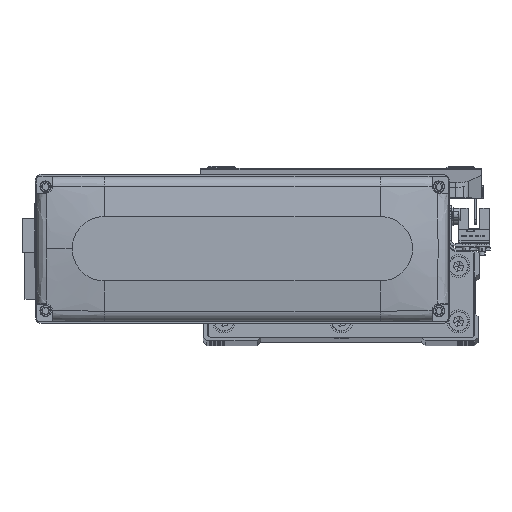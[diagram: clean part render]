
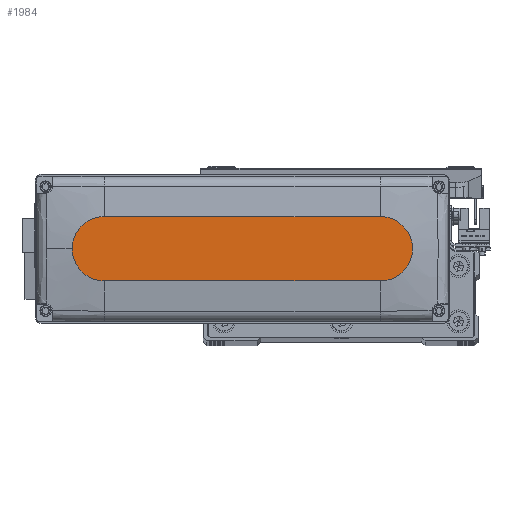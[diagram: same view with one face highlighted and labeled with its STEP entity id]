
A CAD part, top view. The second image highlights one B-rep face of the part: STEP entity #1984.
In plain terms, the highlighted planar face has unit normal (0, 0, 1).
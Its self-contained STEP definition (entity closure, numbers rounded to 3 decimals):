
#233 = ORIENTED_EDGE ( 'NONE', *, *, #38080, .T. ) ;
#1067 = FACE_OUTER_BOUND ( 'NONE', #2857, .T. ) ;
#1984 = ADVANCED_FACE ( 'NONE', ( #1067 ), #15912, .T. ) ;
#2857 = EDGE_LOOP ( 'NONE', ( #233, #46938, #24673, #31609, #34212 ) ) ;
#3426 = VERTEX_POINT ( 'NONE', #15320 ) ;
#5871 = EDGE_CURVE ( 'NONE', #31293, #3426, #12746, .T. ) ;
#8051 = DIRECTION ( 'NONE',  ( 0., 0., 1. ) ) ;
#8936 = CARTESIAN_POINT ( 'NONE',  ( -60., 14., 28.5 ) ) ;
#9858 = CARTESIAN_POINT ( 'NONE',  ( 60., 0., 28.5 ) ) ;
#10133 = AXIS2_PLACEMENT_3D ( 'NONE', #9858, #24656, #39480 ) ;
#11241 = DIRECTION ( 'NONE',  ( 0., 0., 1. ) ) ;
#12265 = DIRECTION ( 'NONE',  ( 1., 0., 0. ) ) ;
#12412 = DIRECTION ( 'NONE',  ( -1., 0., 0. ) ) ;
#12746 = CIRCLE ( 'NONE', #39889, 14. ) ;
#13311 = DIRECTION ( 'NONE',  ( 1., 0., 0. ) ) ;
#13469 = CARTESIAN_POINT ( 'NONE',  ( 60., 14., 28.5 ) ) ;
#14670 = VERTEX_POINT ( 'NONE', #38906 ) ;
#15320 = CARTESIAN_POINT ( 'NONE',  ( -60., -14., 28.5 ) ) ;
#15912 = PLANE ( 'NONE',  #46487 ) ;
#22876 = DIRECTION ( 'NONE',  ( 1., 0., 0. ) ) ;
#23555 = AXIS2_PLACEMENT_3D ( 'NONE', #41317, #8051, #22876 ) ;
#23694 = EDGE_CURVE ( 'NONE', #3426, #40887, #31745, .T. ) ;
#24656 = DIRECTION ( 'NONE',  ( 0., 0., 1. ) ) ;
#24673 = ORIENTED_EDGE ( 'NONE', *, *, #23694, .T. ) ;
#25487 = VERTEX_POINT ( 'NONE', #13469 ) ;
#26042 = DIRECTION ( 'NONE',  ( 1., 0., 0. ) ) ;
#26515 = VECTOR ( 'NONE', #12412, 1000. ) ;
#30705 = CARTESIAN_POINT ( 'NONE',  ( 0., 0., 28.5 ) ) ;
#30847 = LINE ( 'NONE', #45689, #26515 ) ;
#31059 = CIRCLE ( 'NONE', #10133, 14. ) ;
#31293 = VERTEX_POINT ( 'NONE', #8936 ) ;
#31609 = ORIENTED_EDGE ( 'NONE', *, *, #36128, .T. ) ;
#31745 = LINE ( 'NONE', #46578, #33279 ) ;
#33279 = VECTOR ( 'NONE', #13311, 1000. ) ;
#34212 = ORIENTED_EDGE ( 'NONE', *, *, #36763, .T. ) ;
#36128 = EDGE_CURVE ( 'NONE', #40887, #14670, #44484, .T. ) ;
#36763 = EDGE_CURVE ( 'NONE', #14670, #25487, #31059, .T. ) ;
#38080 = EDGE_CURVE ( 'NONE', #25487, #31293, #30847, .T. ) ;
#38906 = CARTESIAN_POINT ( 'NONE',  ( 74., 0., 28.5 ) ) ;
#39480 = DIRECTION ( 'NONE',  ( 1., 0., 0. ) ) ;
#39889 = AXIS2_PLACEMENT_3D ( 'NONE', #44512, #11241, #26042 ) ;
#40808 = CARTESIAN_POINT ( 'NONE',  ( 60., -14., 28.5 ) ) ;
#40887 = VERTEX_POINT ( 'NONE', #40808 ) ;
#41317 = CARTESIAN_POINT ( 'NONE',  ( 60., 0., 28.5 ) ) ;
#44484 = CIRCLE ( 'NONE', #23555, 14. ) ;
#44512 = CARTESIAN_POINT ( 'NONE',  ( -60., 0., 28.5 ) ) ;
#45545 = DIRECTION ( 'NONE',  ( 0., 0., 1. ) ) ;
#45689 = CARTESIAN_POINT ( 'NONE',  ( -60., 14., 28.5 ) ) ;
#46487 = AXIS2_PLACEMENT_3D ( 'NONE', #30705, #45545, #12265 ) ;
#46578 = CARTESIAN_POINT ( 'NONE',  ( -60., -14., 28.5 ) ) ;
#46938 = ORIENTED_EDGE ( 'NONE', *, *, #5871, .T. ) ;
